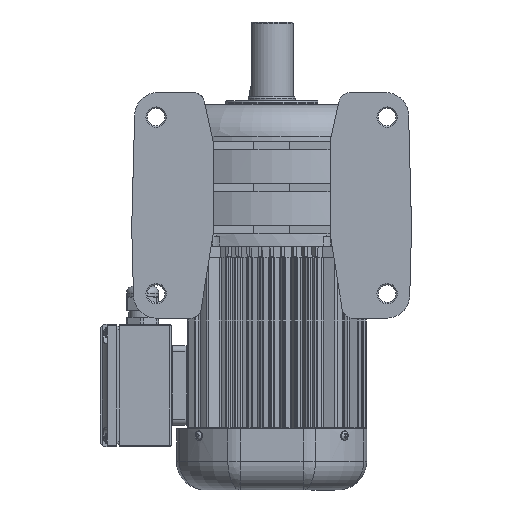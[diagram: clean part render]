
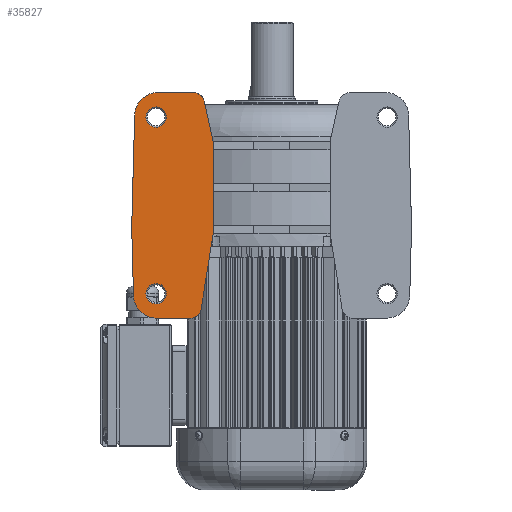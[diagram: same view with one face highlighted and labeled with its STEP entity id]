
A CAD part, front view. The second image highlights one B-rep face of the part: STEP entity #35827.
In plain terms, the highlighted planar face has unit normal (0, -1, 0).
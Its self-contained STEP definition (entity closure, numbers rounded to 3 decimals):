
#2668=LINE('',#61659,#5102);
#2669=LINE('',#61663,#5103);
#2670=LINE('',#61665,#5104);
#2671=LINE('',#61669,#5105);
#2672=LINE('',#61673,#5106);
#2673=LINE('',#61675,#5107);
#2674=LINE('',#61676,#5108);
#5102=VECTOR('',#48388,26.43);
#5103=VECTOR('',#48391,82.473);
#5104=VECTOR('',#48392,50.462);
#5105=VECTOR('',#48395,24.872);
#5106=VECTOR('',#48398,55.988);
#5107=VECTOR('',#48399,68.);
#5108=VECTOR('',#48400,30.461);
#6616=FACE_BOUND('',#10165,.T.);
#6617=FACE_BOUND('',#10166,.T.);
#8092=FACE_OUTER_BOUND('',#10164,.T.);
#10164=EDGE_LOOP('',(#28961,#28962,#28963,#28964,#28965,#28966,#28967,#28968,
#28969,#28970,#28971));
#10165=EDGE_LOOP('',(#28972));
#10166=EDGE_LOOP('',(#28973));
#12419=CIRCLE('',#39494,8.);
#12420=CIRCLE('',#39495,17.);
#12421=CIRCLE('',#39496,17.);
#12422=CIRCLE('',#39497,8.);
#12423=CIRCLE('',#39498,7.5);
#12424=CIRCLE('',#39499,7.5);
#15336=VERTEX_POINT('',#61655);
#15337=VERTEX_POINT('',#61656);
#15338=VERTEX_POINT('',#61658);
#15339=VERTEX_POINT('',#61660);
#15340=VERTEX_POINT('',#61662);
#15341=VERTEX_POINT('',#61664);
#15342=VERTEX_POINT('',#61666);
#15343=VERTEX_POINT('',#61668);
#15344=VERTEX_POINT('',#61670);
#15345=VERTEX_POINT('',#61672);
#15346=VERTEX_POINT('',#61674);
#15347=VERTEX_POINT('',#61677);
#15348=VERTEX_POINT('',#61679);
#20013=EDGE_CURVE('',#15336,#15337,#12419,.T.);
#20014=EDGE_CURVE('',#15338,#15336,#2668,.T.);
#20015=EDGE_CURVE('',#15339,#15338,#12420,.T.);
#20016=EDGE_CURVE('',#15340,#15339,#2669,.T.);
#20017=EDGE_CURVE('',#15341,#15340,#2670,.T.);
#20018=EDGE_CURVE('',#15342,#15341,#12421,.T.);
#20019=EDGE_CURVE('',#15343,#15342,#2671,.T.);
#20020=EDGE_CURVE('',#15344,#15343,#12422,.T.);
#20021=EDGE_CURVE('',#15345,#15344,#2672,.T.);
#20022=EDGE_CURVE('',#15346,#15345,#2673,.T.);
#20023=EDGE_CURVE('',#15337,#15346,#2674,.T.);
#20024=EDGE_CURVE('',#15347,#15347,#12423,.T.);
#20025=EDGE_CURVE('',#15348,#15348,#12424,.T.);
#28961=ORIENTED_EDGE('',*,*,#20013,.F.);
#28962=ORIENTED_EDGE('',*,*,#20014,.F.);
#28963=ORIENTED_EDGE('',*,*,#20015,.F.);
#28964=ORIENTED_EDGE('',*,*,#20016,.F.);
#28965=ORIENTED_EDGE('',*,*,#20017,.F.);
#28966=ORIENTED_EDGE('',*,*,#20018,.F.);
#28967=ORIENTED_EDGE('',*,*,#20019,.F.);
#28968=ORIENTED_EDGE('',*,*,#20020,.F.);
#28969=ORIENTED_EDGE('',*,*,#20021,.F.);
#28970=ORIENTED_EDGE('',*,*,#20022,.F.);
#28971=ORIENTED_EDGE('',*,*,#20023,.F.);
#28972=ORIENTED_EDGE('',*,*,#20024,.F.);
#28973=ORIENTED_EDGE('',*,*,#20025,.F.);
#32200=PLANE('',#39493);
#35827=ADVANCED_FACE('',(#8092,#6616,#6617),#32200,.F.);
#39493=AXIS2_PLACEMENT_3D('',#61654,#48384,#48385);
#39494=AXIS2_PLACEMENT_3D('',#61657,#48386,#48387);
#39495=AXIS2_PLACEMENT_3D('',#61661,#48389,#48390);
#39496=AXIS2_PLACEMENT_3D('',#61667,#48393,#48394);
#39497=AXIS2_PLACEMENT_3D('',#61671,#48396,#48397);
#39498=AXIS2_PLACEMENT_3D('',#61678,#48401,#48402);
#39499=AXIS2_PLACEMENT_3D('',#61680,#48403,#48404);
#48384=DIRECTION('center_axis',(0.,1.,0.));
#48385=DIRECTION('ref_axis',(0.,0.,1.));
#48386=DIRECTION('center_axis',(0.,1.,0.));
#48387=DIRECTION('ref_axis',(0.626,0.,0.78));
#48388=DIRECTION('',(1.,0.,0.));
#48389=DIRECTION('center_axis',(0.,1.,0.));
#48390=DIRECTION('ref_axis',(-0.698,0.,0.716));
#48391=DIRECTION('',(0.026,0.,1.));
#48392=DIRECTION('',(-0.026,0.,1.));
#48393=DIRECTION('center_axis',(0.,1.,0.));
#48394=DIRECTION('ref_axis',(-0.698,0.,-0.716));
#48395=DIRECTION('',(-1.,0.,0.));
#48396=DIRECTION('center_axis',(0.,1.,0.));
#48397=DIRECTION('ref_axis',(0.648,0.,-0.761));
#48398=DIRECTION('',(-0.159,0.,-0.987));
#48399=DIRECTION('',(0.,0.,-1.));
#48400=DIRECTION('',(0.217,0.,-0.976));
#48401=DIRECTION('center_axis',(0.,-1.,0.));
#48402=DIRECTION('ref_axis',(-1.,0.,0.));
#48403=DIRECTION('center_axis',(0.,-1.,0.));
#48404=DIRECTION('ref_axis',(-1.,0.,0.));
#61654=CARTESIAN_POINT('Origin',(0.241,-99.532,-26.));
#61655=CARTESIAN_POINT('',(-57.676,-99.532,57.));
#61656=CARTESIAN_POINT('',(-49.867,-99.532,50.735));
#61657=CARTESIAN_POINT('Origin',(-57.676,-99.532,49.));
#61658=CARTESIAN_POINT('',(-84.106,-99.532,57.));
#61659=CARTESIAN_POINT('',(-84.106,-99.532,57.));
#61660=CARTESIAN_POINT('',(-101.1,-99.532,40.445));
#61661=CARTESIAN_POINT('Origin',(-84.106,-99.532,40.));
#61662=CARTESIAN_POINT('',(-103.259,-99.532,-42.));
#61663=CARTESIAN_POINT('',(-103.259,-99.532,-42.));
#61664=CARTESIAN_POINT('',(-101.938,-99.532,-92.445));
#61665=CARTESIAN_POINT('',(-101.938,-99.532,-92.445));
#61666=CARTESIAN_POINT('',(-84.944,-99.532,-109.));
#61667=CARTESIAN_POINT('Origin',(-84.944,-99.532,-92.));
#61668=CARTESIAN_POINT('',(-60.072,-99.532,-109.));
#61669=CARTESIAN_POINT('',(-60.072,-99.532,-109.));
#61670=CARTESIAN_POINT('',(-52.174,-99.532,-102.274));
#61671=CARTESIAN_POINT('Origin',(-60.072,-99.532,-101.));
#61672=CARTESIAN_POINT('',(-43.259,-99.532,-47.));
#61673=CARTESIAN_POINT('',(-43.259,-99.532,-47.));
#61674=CARTESIAN_POINT('',(-43.259,-99.532,21.));
#61675=CARTESIAN_POINT('',(-43.259,-99.532,21.));
#61676=CARTESIAN_POINT('',(-49.867,-99.532,50.735));
#61677=CARTESIAN_POINT('',(-77.759,-99.532,39.));
#61678=CARTESIAN_POINT('Origin',(-85.259,-99.532,39.));
#61679=CARTESIAN_POINT('',(-77.759,-99.532,-91.));
#61680=CARTESIAN_POINT('Origin',(-85.259,-99.532,-91.));
